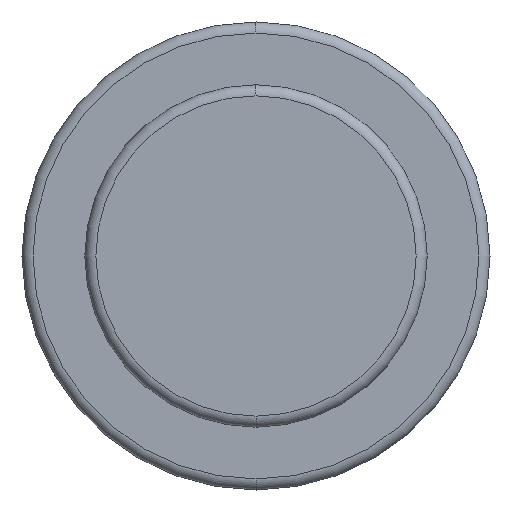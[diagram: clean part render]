
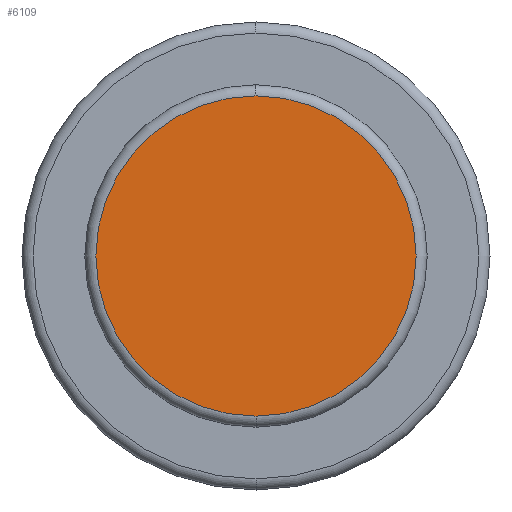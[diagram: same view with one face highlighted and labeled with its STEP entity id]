
A CAD part, front view. The second image highlights one B-rep face of the part: STEP entity #6109.
In plain terms, the highlighted planar face has unit normal (0, -1, 0).
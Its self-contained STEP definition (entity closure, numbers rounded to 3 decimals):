
#1575=CARTESIAN_POINT('',(0.,-24.593,0.));
#1576=DIRECTION('',(0.,1.,0.));
#1577=DIRECTION('',(0.,0.,1.));
#1578=AXIS2_PLACEMENT_3D('',#1575,#1576,#1577);
#1580=CARTESIAN_POINT('',(0.,-24.593,0.));
#1581=DIRECTION('',(0.,1.,0.));
#1582=DIRECTION('',(0.,0.,-1.));
#1583=AXIS2_PLACEMENT_3D('',#1580,#1581,#1582);
#4397=CARTESIAN_POINT('',(0.,-24.593,28.963));
#4398=CARTESIAN_POINT('',(0.,-24.593,
-28.963));
#4399=VERTEX_POINT('',#4397);
#4400=VERTEX_POINT('',#4398);
#6100=CARTESIAN_POINT('',(0.,-24.593,0.));
#6101=DIRECTION('',(0.,-1.,0.));
#6102=DIRECTION('',(0.,0.,1.));
#6103=AXIS2_PLACEMENT_3D('',#6100,#6101,#6102);
#6104=PLANE('',#6103);
#6105=ORIENTED_EDGE('',*,*,#6082,.T.);
#6106=ORIENTED_EDGE('',*,*,#6067,.T.);
#6107=EDGE_LOOP('',(#6105,#6106));
#6108=FACE_OUTER_BOUND('',#6107,.F.);
#6109=ADVANCED_FACE('',(#6108),#6104,.T.);
#1579=CIRCLE('',#1578,28.963);
#1584=CIRCLE('',#1583,28.963);
#6067=EDGE_CURVE('',#4400,#4399,#1584,.T.);
#6082=EDGE_CURVE('',#4399,#4400,#1579,.T.);
